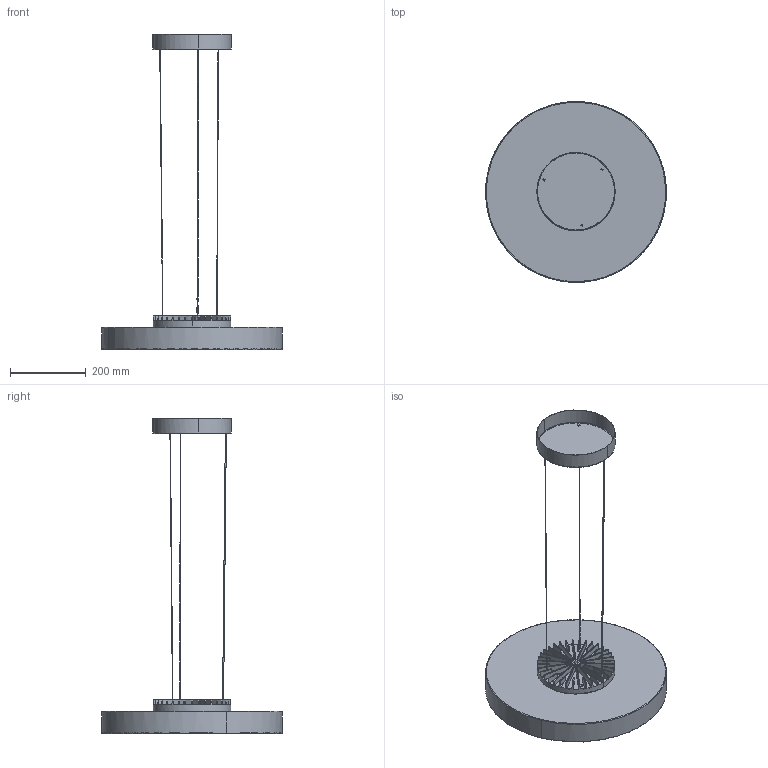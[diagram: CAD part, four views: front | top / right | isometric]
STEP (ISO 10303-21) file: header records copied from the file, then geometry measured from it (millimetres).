
FILE_DESCRIPTION(/* description */ (''),/* implementation_level */ '2;1');
FILE_NAME(/* name */ 'Cotê L060__.050',/* time_stamp */ '2025-05-26T16:46:28+02:00',/* author */ (''),/* organization */ (''),/* preprocessor_version */ 'ST-DEVELOPER v16.5',/* originating_system */ '',/* authorisation */ '');
FILE_SCHEMA (('AUTOMOTIVE_DESIGN'));
Length unit declared in the file: millimetre
Products named in the file (2): Document; 3200.0162000.00 (coppa rosone ACC D est. 206mm H 40,8mm sp 0,8)_3204.
0162003.00
Assembly tree (1 placements, depth 2):
  Document
    3200.0162000.00 (coppa rosone ACC D est. 206mm H 40,8mm sp 0,8)_3204.
0162003.00
Bounding box: 475.87 x 476 x 830.71 mm (x, y, z)
Volume: 1935729.5 mm3; surface area: 1092715.4 mm2
Topology: 6 solids, 6 shells, 897 faces, 2166 edges, 1288 vertices
Faces by surface type: bspline 733, plane 164
Entity records: 43141 total; most frequent: CARTESIAN_POINT 30972, ORIENTED_EDGE 4332, EDGE_CURVE 2166, VERTEX_POINT 1288, B_SPLINE_CURVE_WITH_KNOTS 1063, EDGE_LOOP 930, ADVANCED_FACE 897, FACE_OUTER_BOUND 897
